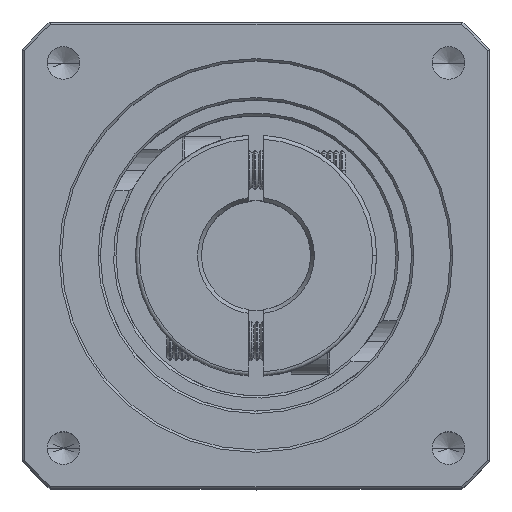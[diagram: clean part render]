
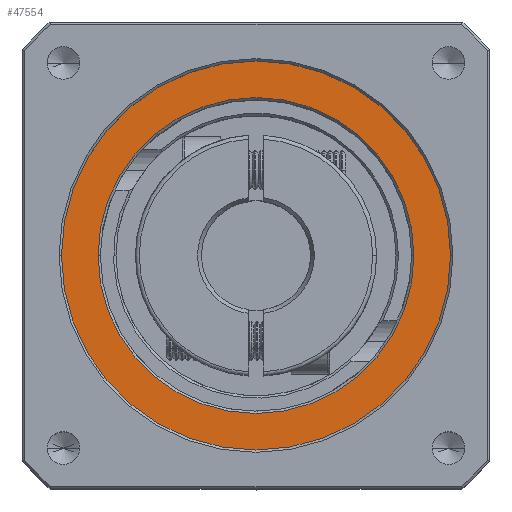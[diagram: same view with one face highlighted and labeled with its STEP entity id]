
A CAD part, top view. The second image highlights one B-rep face of the part: STEP entity #47554.
In plain terms, the highlighted planar face has unit normal (0, 0, 1).
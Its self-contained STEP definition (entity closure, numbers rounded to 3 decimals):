
#1539 = DIRECTION ( 'NONE',  ( 0., 0., -1. ) ) ;
#1785 = EDGE_LOOP ( 'NONE', ( #55493, #94252 ) ) ;
#4485 = DIRECTION ( 'NONE',  ( 0., 0., 1. ) ) ;
#6965 = DIRECTION ( 'NONE',  ( 1., 0., 0. ) ) ;
#8897 = FACE_OUTER_BOUND ( 'NONE', #1785, .T. ) ;
#15511 = CARTESIAN_POINT ( 'NONE',  ( -43.862, 23.581, 10.521 ) ) ;
#16378 = AXIS2_PLACEMENT_3D ( 'NONE', #96952, #52063, #6965 ) ;
#19700 = VERTEX_POINT ( 'NONE', #58368 ) ;
#21972 = VERTEX_POINT ( 'NONE', #15511 ) ;
#22556 = DIRECTION ( 'NONE',  ( 0., 0., -1. ) ) ;
#23524 = CARTESIAN_POINT ( 'NONE',  ( -93.862, 23.581, 10.521 ) ) ;
#23643 = EDGE_CURVE ( 'NONE', #45598, #21972, #66866, .T. ) ;
#37499 = CARTESIAN_POINT ( 'NONE',  ( -68.862, 23.581, 10.521 ) ) ;
#41821 = AXIS2_PLACEMENT_3D ( 'NONE', #46666, #1539, #54232 ) ;
#43770 = EDGE_LOOP ( 'NONE', ( #85462, #43801 ) ) ;
#43801 = ORIENTED_EDGE ( 'NONE', *, *, #95449, .T. ) ;
#45026 = DIRECTION ( 'NONE',  ( 1., 0., 0. ) ) ;
#45598 = VERTEX_POINT ( 'NONE', #23524 ) ;
#45949 = CIRCLE ( 'NONE', #95883, 25. ) ;
#46020 = CIRCLE ( 'NONE', #48260, 20.3 ) ;
#46666 = CARTESIAN_POINT ( 'NONE',  ( -68.862, 23.581, 10.521 ) ) ;
#47554 = ADVANCED_FACE ( 'NONE', ( #86585, #8897 ), #52247, .T. ) ;
#48260 = AXIS2_PLACEMENT_3D ( 'NONE', #67587, #22556, #75188 ) ;
#49580 = CARTESIAN_POINT ( 'NONE',  ( -68.862, 23.581, 10.521 ) ) ;
#52063 = DIRECTION ( 'NONE',  ( 0., 0., 1. ) ) ;
#52247 = PLANE ( 'NONE',  #77148 ) ;
#54232 = DIRECTION ( 'NONE',  ( 1., 0., 0. ) ) ;
#55493 = ORIENTED_EDGE ( 'NONE', *, *, #67180, .T. ) ;
#57106 = DIRECTION ( 'NONE',  ( 1., 0., 0. ) ) ;
#58368 = CARTESIAN_POINT ( 'NONE',  ( -89.162, 23.581, 10.521 ) ) ;
#66866 = CIRCLE ( 'NONE', #16378, 25. ) ;
#67180 = EDGE_CURVE ( 'NONE', #21972, #45598, #45949, .T. ) ;
#67587 = CARTESIAN_POINT ( 'NONE',  ( -68.862, 23.581, 10.521 ) ) ;
#69949 = CARTESIAN_POINT ( 'NONE',  ( -48.562, 23.581, 10.521 ) ) ;
#75188 = DIRECTION ( 'NONE',  ( 1., 0., 0. ) ) ;
#77148 = AXIS2_PLACEMENT_3D ( 'NONE', #37499, #90013, #45026 ) ;
#77266 = EDGE_CURVE ( 'NONE', #93770, #19700, #46020, .T. ) ;
#80867 = CIRCLE ( 'NONE', #41821, 20.3 ) ;
#85462 = ORIENTED_EDGE ( 'NONE', *, *, #77266, .T. ) ;
#86585 = FACE_BOUND ( 'NONE', #43770, .T. ) ;
#90013 = DIRECTION ( 'NONE',  ( 0., 0., 1. ) ) ;
#93770 = VERTEX_POINT ( 'NONE', #69949 ) ;
#94252 = ORIENTED_EDGE ( 'NONE', *, *, #23643, .T. ) ;
#95449 = EDGE_CURVE ( 'NONE', #19700, #93770, #80867, .T. ) ;
#95883 = AXIS2_PLACEMENT_3D ( 'NONE', #49580, #4485, #57106 ) ;
#96952 = CARTESIAN_POINT ( 'NONE',  ( -68.862, 23.581, 10.521 ) ) ;
